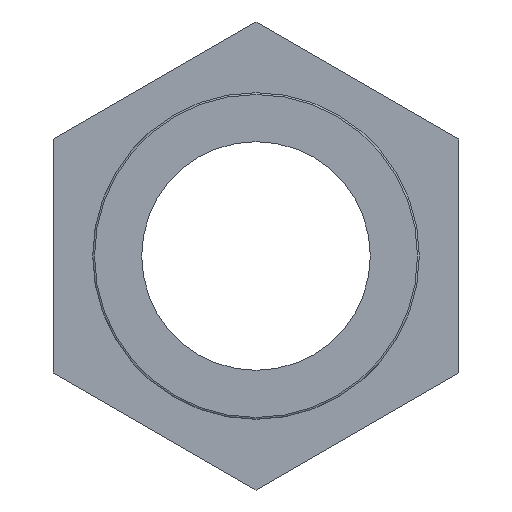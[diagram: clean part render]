
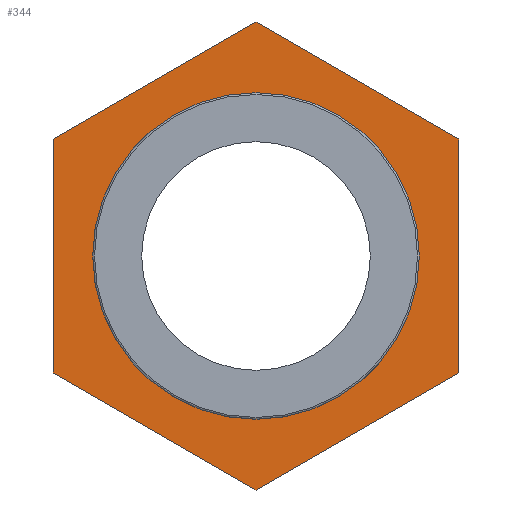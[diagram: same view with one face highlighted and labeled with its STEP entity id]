
A CAD part, left-side view. The second image highlights one B-rep face of the part: STEP entity #344.
In plain terms, the highlighted planar face has unit normal (-1, 0, 0).
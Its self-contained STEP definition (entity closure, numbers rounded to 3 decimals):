
#23=LINE('',#515,#41);
#27=LINE('',#522,#45);
#30=LINE('',#530,#48);
#34=LINE('',#537,#52);
#36=LINE('',#540,#54);
#38=LINE('',#543,#56);
#41=VECTOR('',#410,15.011);
#45=VECTOR('',#416,15.011);
#48=VECTOR('',#421,15.011);
#52=VECTOR('',#427,15.011);
#54=VECTOR('',#431,15.011);
#56=VECTOR('',#435,15.011);
#71=PLANE('',#389);
#93=FACE_BOUND('',#162,.T.);
#118=FACE_OUTER_BOUND('',#161,.T.);
#161=EDGE_LOOP('',(#312,#313,#314,#315,#316,#317));
#162=EDGE_LOOP('',(#318));
#165=CIRCLE('',#351,10.478);
#183=VERTEX_POINT('',#503);
#187=VERTEX_POINT('',#512);
#188=VERTEX_POINT('',#514);
#190=VERTEX_POINT('',#520);
#193=VERTEX_POINT('',#527);
#194=VERTEX_POINT('',#529);
#196=VERTEX_POINT('',#535);
#213=EDGE_CURVE('',#183,#183,#165,.T.);
#217=EDGE_CURVE('',#187,#188,#23,.T.);
#221=EDGE_CURVE('',#190,#187,#27,.T.);
#224=EDGE_CURVE('',#193,#194,#30,.T.);
#228=EDGE_CURVE('',#196,#193,#34,.T.);
#230=EDGE_CURVE('',#188,#196,#36,.T.);
#232=EDGE_CURVE('',#194,#190,#38,.T.);
#312=ORIENTED_EDGE('',*,*,#217,.F.);
#313=ORIENTED_EDGE('',*,*,#221,.F.);
#314=ORIENTED_EDGE('',*,*,#232,.F.);
#315=ORIENTED_EDGE('',*,*,#224,.F.);
#316=ORIENTED_EDGE('',*,*,#228,.F.);
#317=ORIENTED_EDGE('',*,*,#230,.F.);
#318=ORIENTED_EDGE('',*,*,#213,.F.);
#344=ADVANCED_FACE('',(#118,#93),#71,.T.);
#351=AXIS2_PLACEMENT_3D('',#504,#400,#401);
#389=AXIS2_PLACEMENT_3D('',#587,#494,#495);
#400=DIRECTION('center_axis',(-1.,0.,0.));
#401=DIRECTION('ref_axis',(0.,0.,1.));
#410=DIRECTION('',(0.,-0.866,-0.5));
#416=DIRECTION('',(0.,-0.866,0.5));
#421=DIRECTION('',(0.,0.866,0.5));
#427=DIRECTION('',(0.,0.866,-0.5));
#431=DIRECTION('',(0.,0.,-1.));
#435=DIRECTION('',(0.,0.,1.));
#494=DIRECTION('center_axis',(-1.,0.,0.));
#495=DIRECTION('ref_axis',(0.,0.,1.));
#503=CARTESIAN_POINT('',(16.,-10.478,0.));
#504=CARTESIAN_POINT('Origin',(16.,0.,0.));
#512=CARTESIAN_POINT('',(16.,0.,15.011));
#514=CARTESIAN_POINT('',(16.,-13.,7.506));
#515=CARTESIAN_POINT('',(16.,0.,15.011));
#520=CARTESIAN_POINT('',(16.,13.,7.506));
#522=CARTESIAN_POINT('',(16.,13.,7.506));
#527=CARTESIAN_POINT('',(16.,0.,-15.011));
#529=CARTESIAN_POINT('',(16.,13.,-7.506));
#530=CARTESIAN_POINT('',(16.,0.,-15.011));
#535=CARTESIAN_POINT('',(16.,-13.,-7.506));
#537=CARTESIAN_POINT('',(16.,-13.,-7.506));
#540=CARTESIAN_POINT('',(16.,-13.,7.506));
#543=CARTESIAN_POINT('',(16.,13.,-7.506));
#587=CARTESIAN_POINT('Origin',(16.,-10.478,0.));
